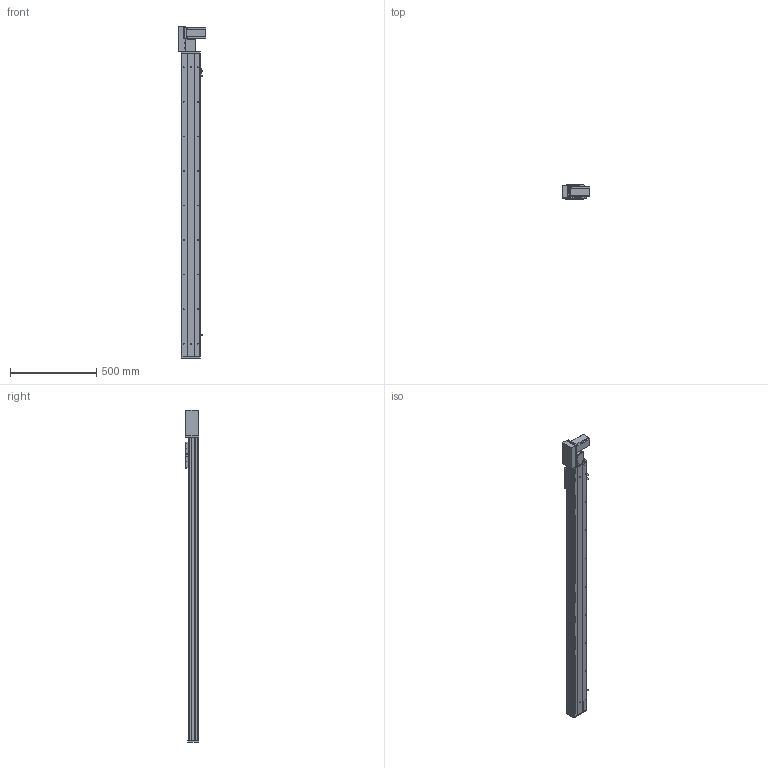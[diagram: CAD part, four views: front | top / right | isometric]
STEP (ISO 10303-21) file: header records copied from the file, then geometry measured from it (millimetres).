
FILE_DESCRIPTION (( 'STEP AP203' ), '1' );
FILE_NAME ('Y10CB-D90-S1500-BL-P400W.STEP', '2020-02-15T08:07:23', ( '微软用户' ), ( '微软中国' ), 'SwSTEP 2.0', 'SolidWorks 2017', '' );
FILE_SCHEMA (( 'CONFIG_CONTROL_DESIGN' ));
Length unit declared in the file: millimetre
Products named in the file (18): Y100-135俋离換覜ん--; 0B-埴倛裔啣; 0CB-雄赽釱---; Y10CB-D90-S1500-BL-P400W; Y俋欶BR----; 0Cb-俋欶---; 10CB-詩湍-; Y10B-々湍喘謫眊楊擘啣--; Y10CB- 掛极耜裔啣-毀---; Y10B--々湍喘謫眊--666; Y10C---詩湍揤啣; Y10B-耜蚾蟀諉啣----; 10CB9-掛极; 0B-萇儂楊擘啣; 10CB-耜裔; san松下电机400不带刹车----; Y135C-陔俋离換覜結え-; 0B-源倛裔啣
Assembly tree (21 placements, depth 2):
  Y10CB-D90-S1500-BL-P400W
    0CB-雄赽釱---
    0Cb-俋欶---
    Y10B-々湍喘謫眊楊擘啣--
    Y10B--々湍喘謫眊--666
    Y10B-耜蚾蟀諉啣----
    0B-萇儂楊擘啣
    san松下电机400不带刹车----
    0B-源倛裔啣
    0B-埴倛裔啣
    Y俋欶BR----
    10CB-詩湍-
    Y10CB- 掛极耜裔啣-毀---  x2
    Y10C---詩湍揤啣  x2
    10CB9-掛极
    10CB-耜裔
    Y135C-陔俋离換覜結え-
    Y100-135俋离換覜ん--  x3
Bounding box: 157.5 x 80.5 x 1922.5 mm (x, y, z)
Volume: 4009404.4 mm3; surface area: 1852738.7 mm2
Topology: 21 solids, 21 shells, 1014 faces, 2723 edges, 1778 vertices
Faces by surface type: cylinder 507, plane 483, cone 24
Entity records: 31904 total; most frequent: CARTESIAN_POINT 5765, DIRECTION 5130, ORIENTED_EDGE 4916, EDGE_CURVE 2458, AXIS2_PLACEMENT_3D 1833, VERTEX_POINT 1604, LINE 1464, VECTOR 1464
